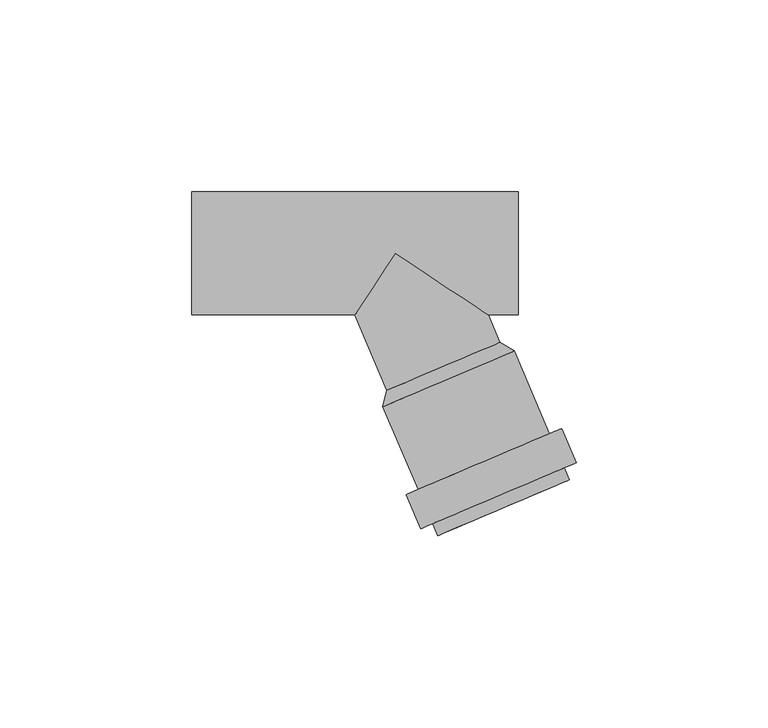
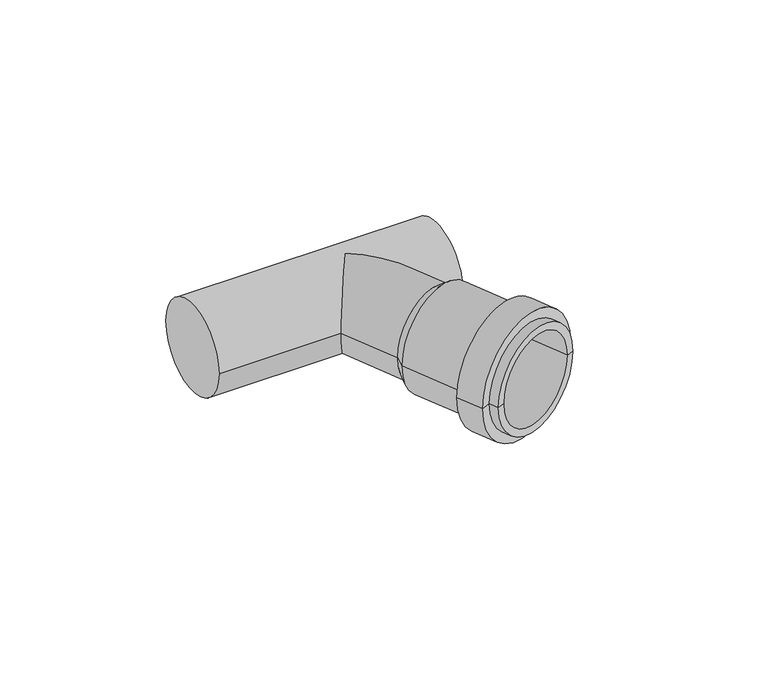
"""IFC4 building model written with IfcOpenShell, lengths in millimetres: pipe fitting geometry, pf_HTEA : pf_HTEA."""

import ifcopenshell
import ifcopenshell.guid

model = None  # the IFC model being written
_history = None  # IfcOwnerHistory: only IFC2X3 demands one
_inside = {}  # id of a spatial element -> (the spatial element, [elements in it])
_under = {}  # id of a project, library or spatial element -> (it, [spatial elements below it])
_declared = {}  # id of a project -> (the project, [libraries it declares])
_typed = {}  # id of a type object -> (the type object, [elements of that type])
_made_of = {}  # id of a material, layer set ... -> (it, [elements and type objects made of it])


def new_model(schema):
    """Start an empty IFC model of exactly this schema.

    Asked for "IFC4X3", IfcOpenShell would pick the latest addendum, in which some entities
    have other attributes; the version numbers below select the first issue.
    IFC2X3 requires an IfcOwnerHistory on every rooted entity: one is made here for all.
    """
    global model, _history
    if schema == "IFC4X3":
        model = ifcopenshell.file(schema_version=(4, 3, 0, 0))
    else:
        model = ifcopenshell.file(schema=schema)
    _inside.clear()
    _under.clear()
    _declared.clear()
    _typed.clear()
    _made_of.clear()
    _history = None
    if model.schema == "IFC2X3":
        org = make("IfcOrganization", Name="unknown")
        user = make(
            "IfcPersonAndOrganization",
            ThePerson=make("IfcPerson", FamilyName="unknown"),
            TheOrganization=org,
        )
        app = make(
            "IfcApplication",
            ApplicationDeveloper=org,
            Version="unknown",
            ApplicationFullName="unknown",
            ApplicationIdentifier="unknown",
        )
        _history = make(
            "IfcOwnerHistory",
            OwningUser=user,
            OwningApplication=app,
            ChangeAction="ADDED",
            CreationDate=0,
        )
    return model


def make(cls, **values):
    """One entity of the class cls with the attributes given. An attribute that is None is left unset."""
    return model.create_entity(
        cls, **{name: value for name, value in values.items() if value is not None}
    )


def rooted(cls, **values):
    """An entity with a GlobalId (a new one), such as an element, a storey or a relation."""
    return make(cls, GlobalId=ifcopenshell.guid.new(), OwnerHistory=_history, **values)


def si_unit(unit_type, name, prefix=None):
    """IfcSIUnit, for example si_unit("LENGTHUNIT", "METRE", prefix="MILLI")."""
    return make("IfcSIUnit", UnitType=unit_type, Prefix=prefix, Name=name)


def assignment(units):
    """IfcUnitAssignment: the units of a project."""
    return None if units is None else make("IfcUnitAssignment", Units=units)


def point(xyz):
    """IfcCartesianPoint."""
    return None if xyz is None else make("IfcCartesianPoint", Coordinates=xyz)


def direction(xyz):
    """IfcDirection."""
    return None if xyz is None else make("IfcDirection", DirectionRatios=xyz)


def frame(location, z_axis=None, x_axis=None):
    """IfcAxis2Placement3D, a coordinate frame: its origin and axes. An axis left out is left unset."""
    return make(
        "IfcAxis2Placement3D",
        Location=point(location),
        Axis=direction(z_axis),
        RefDirection=direction(x_axis),
    )


def origin():
    """The frame at (0, 0, 0) with its axes left unset."""
    return frame((0.0, 0.0, 0.0))


def place(relative_to, where):
    """IfcLocalPlacement: puts the frame where relative to a parent placement (None: the world)."""
    return make(
        "IfcLocalPlacement", PlacementRelTo=relative_to, RelativePlacement=where
    )


def context(
    kind, dimensions, precision=None, world=None, true_north=None, identifier=None
):
    """IfcGeometricRepresentationContext, for example the 3D "Model" context."""
    return make(
        "IfcGeometricRepresentationContext",
        ContextIdentifier=identifier,
        ContextType=kind,
        CoordinateSpaceDimension=dimensions,
        Precision=precision,
        WorldCoordinateSystem=world,
        TrueNorth=true_north,
    )


def project(units=None, contexts=None):
    """IfcProject with its units and contexts."""
    return rooted(
        "IfcProject",
        Name="project",
        RepresentationContexts=contexts,
        UnitsInContext=assignment(units),
    )


def spatial(cls, under=None, at=None, **own):
    """A site, building, storey or space (cls), placed at a placement, below another one or the project."""
    s = rooted(cls, ObjectPlacement=at, **own)
    if under is not None:
        _under.setdefault(under.id(), (under, []))[1].append(s)
    return s


def polyline(points):
    """IfcPolyline through the points."""
    return make("IfcPolyline", Points=[point(p) for p in points])


def circle_curve(where, radius):
    """IfcCircle in the frame where."""
    return make("IfcCircle", Position=where, Radius=radius)


def ellipse_curve(where, semi_axis1, semi_axis2):
    """IfcEllipse in the frame where."""
    return make(
        "IfcEllipse", Position=where, SemiAxis1=semi_axis1, SemiAxis2=semi_axis2
    )


def shape(context_of_items, identifier, shape_type, items):
    """IfcShapeRepresentation: the items that make up one representation, for example the "Body"."""
    return make(
        "IfcShapeRepresentation",
        ContextOfItems=context_of_items,
        RepresentationIdentifier=identifier,
        RepresentationType=shape_type,
        Items=items,
    )


def source(mapping_origin, context_of_items, identifier, shape_type, items):
    """IfcRepresentationMap: a shape defined once, which mapped items show again and again."""
    return make(
        "IfcRepresentationMap",
        MappingOrigin=mapping_origin,
        MappedRepresentation=shape(context_of_items, identifier, shape_type, items),
    )


def transform(
    local_origin,
    x_axis=None,
    y_axis=None,
    z_axis=None,
    scale=None,
    scale2=None,
    scale3=None,
    uniform=True,
):
    """IfcCartesianTransformationOperator3D, or its non-uniform kind. x_axis, y_axis, z_axis: its Axis1, 2, 3."""
    if uniform:
        return make(
            "IfcCartesianTransformationOperator3D",
            Axis1=direction(x_axis),
            Axis2=direction(y_axis),
            LocalOrigin=point(local_origin),
            Scale=scale,
            Axis3=direction(z_axis),
        )
    return make(
        "IfcCartesianTransformationOperator3DnonUniform",
        Axis1=direction(x_axis),
        Axis2=direction(y_axis),
        LocalOrigin=point(local_origin),
        Scale=scale,
        Axis3=direction(z_axis),
        Scale2=scale2,
        Scale3=scale3,
    )


def mapped(mapping_source, mapping_target):
    """IfcMappedItem: shows the shape of a source again, moved by a transform."""
    return make(
        "IfcMappedItem", MappingSource=mapping_source, MappingTarget=mapping_target
    )


def made_of(thing, what):
    """Note that an element or type object is made of a material, layer set ...; save() writes the relation."""
    if what is not None:
        _made_of.setdefault(what.id(), (what, []))[1].append(thing)
    return thing


def element(
    cls,
    number,
    at=None,
    inside=None,
    cuts=None,
    type_object=None,
    material=None,
    context=None,
    identifier="Body",
    shape_type=None,
    held_by="IfcProductDefinitionShape",
    body=None,
    shapes=None,
    **own,
):
    """One element of the class cls, such as IfcWall. Its Tag is "e" and its number.

    at: its placement. inside: the storey or other place that contains it. cuts: it is an
    opening in that element (IfcRelVoidsElement). A single representation is given by context,
    identifier, shape_type and body (its items); several are given by shapes. held_by: the class
    of the entity that holds the representations. save() writes the other relations.
    """
    e = rooted(cls, Tag="e%d" % number, ObjectPlacement=at, **own)
    if body is not None:
        shapes = [shape(context, identifier, shape_type, body)]
    if shapes is not None:
        e.Representation = make(held_by, Representations=shapes)
    if inside is not None:
        _inside.setdefault(inside.id(), (inside, []))[1].append(e)
    if cuts is not None:
        rooted(
            "IfcRelVoidsElement", RelatingBuildingElement=cuts, RelatedOpeningElement=e
        )
    if type_object is not None:
        _typed.setdefault(type_object.id(), (type_object, []))[1].append(e)
    return made_of(e, material)


def aggregate(whole, parts):
    """IfcRelAggregates: a whole, such as a stair, and the parts it consists of."""
    return rooted("IfcRelAggregates", RelatingObject=whole, RelatedObjects=parts)


def save(model, path):
    """Write the relations noted so far, then the file.

    IfcRelAggregates (storeys below a building ...), IfcRelContainedInSpatialStructure (elements
    in a storey), IfcRelDefinesByType, IfcRelAssociatesMaterial and IfcRelDeclares: one each for
    every whole, place, type object, material and project.
    """
    for whole, parts in _under.values():
        aggregate(whole, parts)
    for where, things in _inside.values():
        rooted(
            "IfcRelContainedInSpatialStructure",
            RelatedElements=things,
            RelatingStructure=where,
        )
    for kind, things in _typed.values():
        rooted("IfcRelDefinesByType", RelatedObjects=things, RelatingType=kind)
    for what, things in _made_of.values():
        rooted("IfcRelAssociatesMaterial", RelatedObjects=things, RelatingMaterial=what)
    for by, libraries in _declared.values():
        rooted("IfcRelDeclares", RelatingContext=by, RelatedDefinitions=libraries)
    model.write(path)


def plane_surface(at):
    """IfcPlane: the flat surface through the origin of the frame at, square to its z axis."""
    return make("IfcPlane", Position=at)


def cylinder_surface(at, radius):
    """IfcCylindricalSurface: all points at the distance radius from the z axis of the frame at."""
    return make("IfcCylindricalSurface", Position=at, Radius=radius)


def revolved_surface(curve, axis_point, axis_direction):
    """IfcSurfaceOfRevolution: the curve turned about the line through axis_point along axis_direction."""
    return make(
        "IfcSurfaceOfRevolution",
        SweptCurve=make("IfcArbitraryOpenProfileDef", ProfileType="CURVE", Curve=curve),
        AxisPosition=make("IfcAxis1Placement", Location=point(axis_point), Axis=direction(axis_direction)),
    )


def advanced_brep(points, edges, surfaces, faces):
    """IfcAdvancedBrep: a solid bounded by faces that lie on surfaces and meet in shared edges.

    An edge is (start, end): straight between two places in points (the first is 0);
    or (start, end, curve); or (start, end, curve, False) where it runs against its curve.
    A face is (place in surfaces, loops), or (place, loops, False) where it looks against
    its surface's normal. A loop lists edges by number (the first is 1), with a minus sign
    where the edge is run from its end to its start. The first loop is the outer one.
    """
    corners = [point(p) for p in points]
    vertices = [make("IfcVertexPoint", VertexGeometry=c) for c in corners]
    made = []
    for start, end, *more in edges:
        made.append(
            make(
                "IfcEdgeCurve",
                EdgeStart=vertices[start],
                EdgeEnd=vertices[end],
                EdgeGeometry=more[0] if more else make("IfcPolyline", Points=[corners[start], corners[end]]),
                SameSense=more[1] if len(more) > 1 else True,
            )
        )
    hull = []
    for where, loops, *sense in faces:
        bounds = []
        for j, loop in enumerate(loops):
            ring = [make("IfcOrientedEdge", EdgeElement=made[abs(k) - 1], Orientation=k > 0) for k in loop]
            bounds.append(
                make(
                    "IfcFaceOuterBound" if j == 0 else "IfcFaceBound",
                    Bound=make("IfcEdgeLoop", EdgeList=ring),
                    Orientation=True,
                )
            )
        hull.append(make("IfcAdvancedFace", Bounds=bounds, FaceSurface=surfaces[where], SameSense=sense[0] if sense else True))
    return make("IfcAdvancedBrep", Outer=make("IfcClosedShell", CfsFaces=hull))


def pipe_fitting_f6564ba2(model_context):
    return source(origin(), model_context, "Body", "AdvancedBrep", [
        advanced_brep(
        [(-2.2246815, -35.7078534, 0.0), (27.2314738, -23.2044573, 0.0), (30.9923453, -25.4103233, 0.0), (-3.2504352, -39.9455213, 0.0), (12.5033961, -29.4561553, 0.0), (11.011251, -73.5439484, 0.0), (45.2540315, -59.0087505, 0.0), (42.8607189, -60.0246514, 0.0), (13.4045636, -72.5280475, 0.0), (9.6827651, -70.4142319, 0.0), (43.9255457, -55.879034, 0.0), (6.5530486, -71.7427178, 0.0), (47.0552622, -54.5505481, 0.0), (2.7629567, -62.8138207, 0.0), (43.2651702, -45.621651, 0.0), (5.8926732, -61.4853349, 0.0), (40.1354537, -46.9501369, 0.0), (-0.8571226, -38.9296204, 0.0), (28.5990327, -26.4262242, 0.0), (13.8709551, -32.6779223, 0.0)],
        [
            (0, 1, circle_curve(frame((12.5033961, -29.4561553, 0.0), z_axis=(0.39073112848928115, -0.9205048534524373, 0.0), x_axis=(0.9205048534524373, 0.39073112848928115, 0.0)), 16.0)),
            (1, 2),
            (2, 3, circle_curve(frame((13.8709551, -32.6779223, 0.0), z_axis=(-0.39073112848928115, 0.9205048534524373, 0.0), x_axis=(0.9205048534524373, 0.39073112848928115, 0.0)), 18.6)),
            (3, 0),
            (1, 0, circle_curve(frame((12.5033961, -29.4561553, 0.0), z_axis=(0.39073112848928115, -0.9205048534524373, 0.0), x_axis=(0.9205048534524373, 0.39073112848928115, 0.0)), 16.0)),
            (3, 2, circle_curve(frame((13.8709551, -32.6779223, 0.0), z_axis=(-0.39073112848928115, 0.9205048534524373, 0.0), x_axis=(0.9205048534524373, 0.39073112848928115, 0.0)), 18.6)),
            (4, 1),
            (0, 4),
            (5, 6, circle_curve(frame((28.1326413, -66.2763494, 0.0), z_axis=(0.39073112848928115, -0.9205048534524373, 0.0), x_axis=(0.9205048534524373, 0.39073112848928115, 0.0)), 18.6)),
            (6, 7),
            (7, 8, circle_curve(frame((28.1326413, -66.2763494, 0.0), z_axis=(-0.39073112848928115, 0.9205048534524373, 0.0), x_axis=(0.9205048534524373, 0.39073112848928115, 0.0)), 16.0)),
            (8, 5),
            (6, 5, circle_curve(frame((28.1326413, -66.2763494, 0.0), z_axis=(0.39073112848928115, -0.9205048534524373, 0.0), x_axis=(0.9205048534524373, 0.39073112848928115, 0.0)), 18.6)),
            (8, 7, circle_curve(frame((28.1326413, -66.2763494, 0.0), z_axis=(-0.39073112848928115, 0.9205048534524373, 0.0), x_axis=(0.9205048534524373, 0.39073112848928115, 0.0)), 16.0)),
            (9, 10, circle_curve(frame((26.8041554, -63.1466329, 0.0), z_axis=(0.39073112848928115, -0.9205048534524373, 0.0), x_axis=(0.9205048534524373, 0.39073112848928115, 0.0)), 18.6)),
            (10, 6),
            (5, 9),
            (10, 9, circle_curve(frame((26.8041554, -63.1466329, 0.0), z_axis=(0.39073112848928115, -0.9205048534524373, 0.0), x_axis=(0.9205048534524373, 0.39073112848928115, 0.0)), 18.6)),
            (11, 12, circle_curve(frame((26.8041554, -63.1466329, 0.0), z_axis=(0.39073112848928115, -0.9205048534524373, 0.0), x_axis=(0.9205048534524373, 0.39073112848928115, 0.0)), 22.0)),
            (12, 10),
            (9, 11),
            (12, 11, circle_curve(frame((26.8041554, -63.1466329, 0.0), z_axis=(0.39073112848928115, -0.9205048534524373, 0.0), x_axis=(0.9205048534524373, 0.39073112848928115, 0.0)), 22.0)),
            (13, 14, circle_curve(frame((23.0140635, -54.2177359, 0.0), z_axis=(0.39073112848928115, -0.9205048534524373, 0.0), x_axis=(0.9205048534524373, 0.39073112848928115, 0.0)), 22.0)),
            (14, 12),
            (11, 13),
            (14, 13, circle_curve(frame((23.0140635, -54.2177359, 0.0), z_axis=(0.39073112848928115, -0.9205048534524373, 0.0), x_axis=(0.9205048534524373, 0.39073112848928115, 0.0)), 22.0)),
            (15, 16, circle_curve(frame((23.0140635, -54.2177359, 0.0), z_axis=(0.39073112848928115, -0.9205048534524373, 0.0), x_axis=(0.9205048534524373, 0.39073112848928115, 0.0)), 18.6)),
            (16, 14),
            (13, 15),
            (16, 15, circle_curve(frame((23.0140635, -54.2177359, 0.0), z_axis=(0.39073112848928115, -0.9205048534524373, 0.0), x_axis=(0.9205048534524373, 0.39073112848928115, 0.0)), 18.6)),
            (2, 16),
            (15, 3),
            (17, 18, circle_curve(frame((13.8709551, -32.6779223, 0.0), z_axis=(0.39073112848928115, -0.9205048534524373, 0.0), x_axis=(0.9205048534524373, 0.39073112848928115, 0.0)), 16.0)),
            (18, 19),
            (19, 17),
            (18, 17, circle_curve(frame((13.8709551, -32.6779223, 0.0), z_axis=(0.39073112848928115, -0.9205048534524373, 0.0), x_axis=(0.9205048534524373, 0.39073112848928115, 0.0)), 16.0)),
            (7, 18),
            (17, 8),
        ],
        [
            revolved_surface(polyline([(30.9923453, -25.4103233, 0.0), (27.2314738, -23.2044573, 0.0)]), (12.5033961, -29.4561553, 0.0), (-0.39073112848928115, 0.9205048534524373, 0.0)),
            plane_surface(frame((12.5033961, -29.4561553, 0.0), z_axis=(-0.39073112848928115, 0.9205048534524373, 0.0), x_axis=(0.9205048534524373, 0.39073112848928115, 0.0))),
            plane_surface(frame((28.1326413, -66.2763494, 0.0), z_axis=(0.39073112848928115, -0.9205048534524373, 0.0), x_axis=(0.9205048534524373, 0.39073112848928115, 0.0))),
            cylinder_surface(frame((12.5033961, -29.4561553, 0.0), z_axis=(-0.39073112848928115, 0.9205048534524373, 0.0), x_axis=(0.9205048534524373, 0.39073112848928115, 0.0)), 18.6),
            plane_surface(frame((26.8041554, -63.1466329, 0.0), z_axis=(0.39073112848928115, -0.9205048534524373, 0.0), x_axis=(0.9205048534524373, 0.39073112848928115, 0.0))),
            cylinder_surface(frame((12.5033961, -29.4561553, 0.0), z_axis=(-0.39073112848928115, 0.9205048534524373, 0.0), x_axis=(0.9205048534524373, 0.39073112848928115, 0.0)), 22.0),
            plane_surface(frame((23.0140635, -54.2177359, 0.0), z_axis=(-0.39073112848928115, 0.9205048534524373, 0.0), x_axis=(0.9205048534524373, 0.39073112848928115, 0.0))),
            plane_surface(frame((13.8709551, -32.6779223, 0.0), z_axis=(0.39073112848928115, -0.9205048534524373, 0.0), x_axis=(0.9205048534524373, 0.39073112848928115, 0.0))),
            revolved_surface(polyline([(28.599032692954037, -26.426224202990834, 0.0), (42.86071890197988, -60.0246513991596, 0.0)]), (12.5033961, -29.4561553, 0.0), (-0.39073112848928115, 0.9205048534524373, 0.0)),
        ],
        [
            (0, [[1, 2, 3, 4]]),
            (0, [[5, -4, 6, -2]]),
            (1, [[7, -1, 8]]),
            (1, [[-8, -5, -7]]),
            (2, [[9, 10, 11, 12]]),
            (2, [[13, -12, 14, -10]]),
            (3, [[15, 16, -9, 17]]),
            (3, [[18, -17, -13, -16]]),
            (4, [[19, 20, -15, 21]]),
            (4, [[22, -21, -18, -20]]),
            (5, [[23, 24, -19, 25]]),
            (5, [[26, -25, -22, -24]]),
            (6, [[27, 28, -23, 29]]),
            (6, [[30, -29, -26, -28]]),
            (3, [[-3, 31, -27, 32]]),
            (3, [[-6, -32, -30, -31]]),
            (7, [[33, 34, 35]]),
            (7, [[36, -35, -34]]),
            (8, [[-11, 37, -33, 38]]),
            (8, [[-14, -38, -36, -37]]),
        ],
    ),
        advanced_brep(
        [(-2.2246815, -35.7078534, 0.0), (27.2314738, -23.2044573, 0.0), (-53.0, -16.0, 0.0), (-53.0, 16.0, 0.0), (32.0, -16.0, 0.0), (32.0, 16.0, 0.0), (-10.590169, -16.0, 0.0), (0.0, 0.0, 16.0), (24.1733631, -16.0, 0.0), (0.0, 0.0, -16.0)],
        [
            (0, 1, circle_curve(frame((12.5033961, -29.4561553, 0.0), z_axis=(0.39073112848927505, -0.9205048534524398, 0.0), x_axis=(0.9205048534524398, 0.39073112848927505, 0.0)), 16.0)),
            (1, 0, circle_curve(frame((12.5033961, -29.4561553, 0.0), z_axis=(0.39073112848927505, -0.9205048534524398, 0.0), x_axis=(0.9205048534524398, 0.39073112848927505, 0.0)), 16.0)),
            (2, 3, circle_curve(frame((-53.0, 0.0, 0.0), z_axis=(-1.0, 0.0, 0.0), x_axis=(0.0, 1.0, 0.0)), 16.0)),
            (3, 2, circle_curve(frame((-53.0, 0.0, 0.0), z_axis=(-1.0, 0.0, 0.0), x_axis=(0.0, 1.0, 0.0)), 16.0)),
            (4, 5, circle_curve(frame((32.0, 0.0, 0.0), z_axis=(1.0, 0.0, 0.0), x_axis=(0.0, 1.0, 0.0)), 16.0)),
            (5, 4, circle_curve(frame((32.0, 0.0, 0.0), z_axis=(1.0, 0.0, 0.0), x_axis=(0.0, 1.0, 0.0)), 16.0)),
            (2, 6),
            (6, 7, ellipse_curve(frame((0.0, 0.0, 0.0), z_axis=(-0.8338858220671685, 0.5519369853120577, 0.0), x_axis=(-0.5519369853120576, -0.8338858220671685, 0.0)), 19.1872791, 16.0)),
            (7, 8, ellipse_curve(frame((0.0, 0.0, 0.0), z_axis=(0.5519369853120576, 0.8338858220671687, 0.0), x_axis=(-0.8338858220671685, 0.5519369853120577, 0.0)), 28.9888165, 16.0)),
            (8, 4),
            (5, 3),
            (8, 9, ellipse_curve(frame((0.0, 0.0, 0.0), z_axis=(0.5519369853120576, 0.8338858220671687, 0.0), x_axis=(-0.8338858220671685, 0.5519369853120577, 0.0)), 28.9888165, 16.0)),
            (9, 6, ellipse_curve(frame((0.0, 0.0, 0.0), z_axis=(-0.8338858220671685, 0.5519369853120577, 0.0), x_axis=(-0.5519369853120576, -0.8338858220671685, 0.0)), 19.1872791, 16.0)),
            (1, 8),
            (6, 0),
        ],
        [
            plane_surface(frame((12.5033961, -29.4561553, 0.0), z_axis=(0.39073112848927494, -0.9205048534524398, 0.0), x_axis=(0.0, 0.0, 1.0))),
            plane_surface(frame((-53.0, 0.0, 0.0), z_axis=(-1.0, 0.0, 0.0), x_axis=(0.0, 0.0, 1.0))),
            plane_surface(frame((32.0, 0.0, 0.0), z_axis=(1.0, 0.0, 0.0), x_axis=(0.0, 0.0, 1.0))),
            cylinder_surface(frame((-53.0, 0.0, 0.0), z_axis=(-1.0, 0.0, 0.0), x_axis=(0.0, 1.0, 0.0)), 16.0),
            cylinder_surface(frame((0.0, 0.0, 0.0), z_axis=(-0.39073112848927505, 0.9205048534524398, 0.0), x_axis=(0.9205048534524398, 0.39073112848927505, 0.0)), 16.0),
        ],
        [
            (0, [[1, 2]]),
            (1, [[3, 4]]),
            (2, [[5, 6]]),
            (3, [[-3, 7, 8, 9, 10, -6, 11]]),
            (3, [[-4, -11, -5, -10, 12, 13, -7]]),
            (4, [[-2, 14, -9, -8, 15]]),
            (4, [[-1, -15, -13, -12, -14]]),
        ],
    ),
    ])


if __name__ == "__main__":
    model = new_model("IFC4")
    model_context = context("Model", 3, world=origin())
    ifc_project = project(units=[si_unit("LENGTHUNIT", "METRE", prefix="MILLI")], contexts=[model_context])
    site = spatial("IfcSite", under=ifc_project)
    building = spatial("IfcBuilding", under=site)
    placement = place(None, origin())
    pipe_fitting_shape = pipe_fitting_f6564ba2(model_context)
    element("IfcPipeFitting", 1, ObjectType="pf_HTEA : pf_HTEA", at=placement, inside=building, context=model_context, shape_type="MappedRepresentation", body=[
        mapped(pipe_fitting_shape, transform((0.0, 0.0, 0.0), x_axis=(1.0, 0.0, 0.0), y_axis=(0.0, 1.0, 0.0), z_axis=(0.0, 0.0, 1.0))),
    ])
    save(model, "model.ifc")
